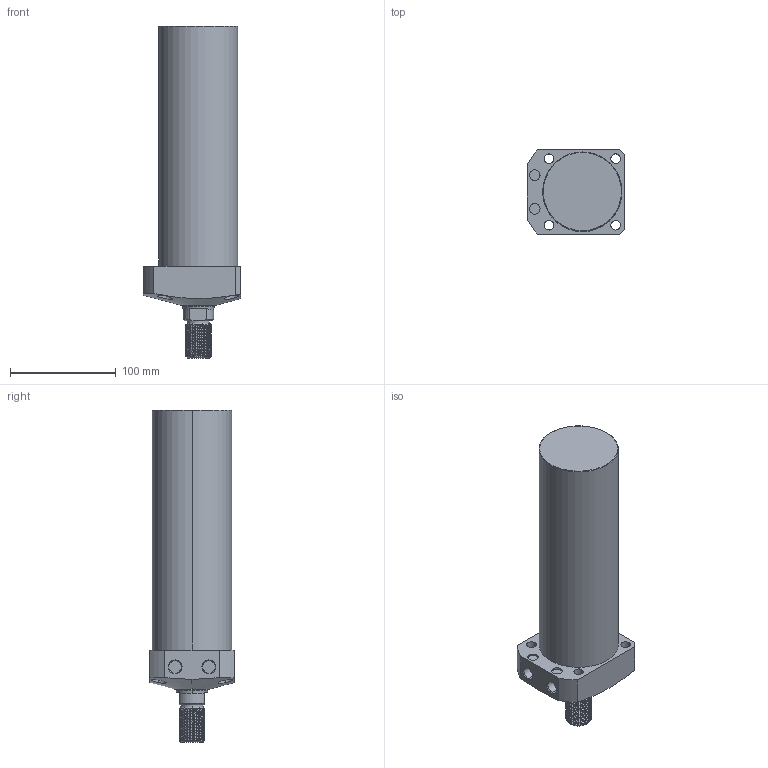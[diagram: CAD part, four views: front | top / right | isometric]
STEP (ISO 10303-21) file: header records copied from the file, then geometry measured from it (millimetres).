
FILE_DESCRIPTION (( 'STEP AP203' ), '1' );
FILE_NAME ('CLL-075CT-190.STEP', '2020-01-08T12:19:58', ( '' ), ( '' ), 'SwSTEP 2.0', 'SolidWorks 2015', '' );
FILE_SCHEMA (( 'CONFIG_CONTROL_DESIGN' ));
Length unit declared in the file: millimetre
Products named in the file (1): CLL-075CT-190
Bounding box: 92 x 80 x 314 mm (x, y, z)
Volume: 1244210.9 mm3; surface area: 88220.6 mm2
Topology: 1 solids, 1 shells, 121 faces, 310 edges, 202 vertices
Faces by surface type: cylinder 77, plane 23, cone 17, torus 2, bspline 2
Entity records: 6509 total; most frequent: CARTESIAN_POINT 3719, ORIENTED_EDGE 620, DIRECTION 517, EDGE_CURVE 310, AXIS2_PLACEMENT_3D 204, VERTEX_POINT 202, EDGE_LOOP 140, FACE_OUTER_BOUND 121
